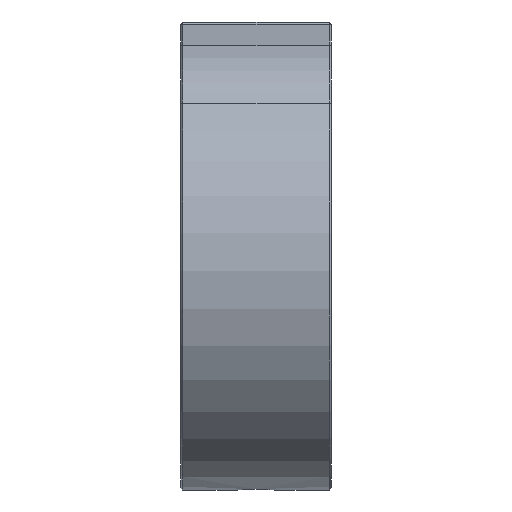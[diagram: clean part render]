
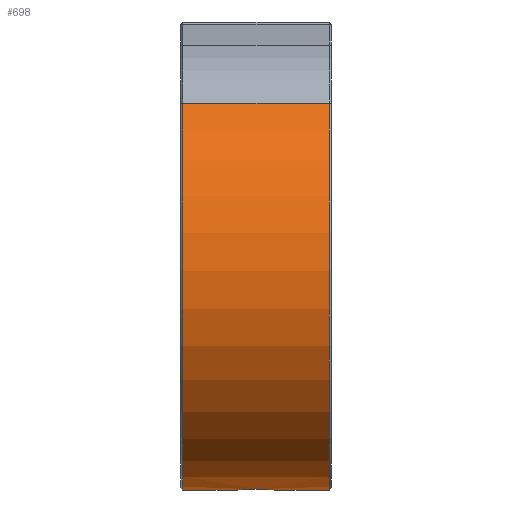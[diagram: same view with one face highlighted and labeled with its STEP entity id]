
A CAD part, left-side view. The second image highlights one B-rep face of the part: STEP entity #698.
In plain terms, the highlighted cylindrical face has radius 29 mm (diameter 58 mm), a partial arc.
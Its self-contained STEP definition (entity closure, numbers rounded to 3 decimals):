
#1 = DIRECTION ( 'NONE',  ( 0., 1., 0. ) ) ;
#11 = CARTESIAN_POINT ( 'NONE',  ( 0., 0.3, 0. ) ) ;
#39 = CARTESIAN_POINT ( 'NONE',  ( -1.252, 12.17, -28.973 ) ) ;
#41 = VERTEX_POINT ( 'NONE', #383 ) ;
#54 = CARTESIAN_POINT ( 'NONE',  ( -2.5, 10.33, -28.892 ) ) ;
#70 = CARTESIAN_POINT ( 'NONE',  ( -18.59, 19.7, 22.258 ) ) ;
#74 = AXIS2_PLACEMENT_3D ( 'NONE', #185, #816, #1125 ) ;
#78 = DIRECTION ( 'NONE',  ( 0., -1., 0. ) ) ;
#92 = CARTESIAN_POINT ( 'NONE',  ( -2.246, 8.891, -28.913 ) ) ;
#97 = CARTESIAN_POINT ( 'NONE',  ( 0., 0.3, -29. ) ) ;
#136 = EDGE_CURVE ( 'NONE', #723, #773, #333, .T. ) ;
#137 = EDGE_LOOP ( 'NONE', ( #879, #854, #755, #1072, #337, #941, #934 ) ) ;
#148 = CARTESIAN_POINT ( 'NONE',  ( -0.328, 12.484, -28.999 ) ) ;
#185 = CARTESIAN_POINT ( 'NONE',  ( 0., 19.7, 0. ) ) ;
#215 = B_SPLINE_CURVE_WITH_KNOTS ( 'NONE', 3,
 ( #975, #780, #148, #877, #856, #763, #39, #441, #1297, #1082, #241, #565, #982, #434, #54, #869 ),
 .UNSPECIFIED., .F., .F.,
 ( 4, 2, 2, 2, 2, 2, 2, 4 ),
 ( 0.012, 0.012, 0.013, 0.013, 0.014, 0.014, 0.015, 0.016 ),
 .UNSPECIFIED. ) ;
#219 = B_SPLINE_CURVE_WITH_KNOTS ( 'NONE', 3,
 ( #601, #1119, #498, #289, #681, #92, #375, #277, #1320, #263, #1329, #1105, #703, #367, #283, #802, #1098, #809 ),
 .UNSPECIFIED., .F., .F.,
 ( 4, 2, 2, 2, 2, 2, 2, 2, 4 ),
 ( 0., 0., 0.001, 0.001, 0.002, 0.002, 0.003, 0.003, 0.004 ),
 .UNSPECIFIED. ) ;
#241 = CARTESIAN_POINT ( 'NONE',  ( -1.986, 11.527, -28.932 ) ) ;
#263 = CARTESIAN_POINT ( 'NONE',  ( -1.652, 8.116, -28.953 ) ) ;
#269 = EDGE_CURVE ( 'NONE', #758, #356, #215, .T. ) ;
#277 = CARTESIAN_POINT ( 'NONE',  ( -1.988, 8.475, -28.932 ) ) ;
#283 = CARTESIAN_POINT ( 'NONE',  ( -0.648, 7.58, -28.993 ) ) ;
#289 = CARTESIAN_POINT ( 'NONE',  ( -2.42, 9.352, -28.899 ) ) ;
#333 = CIRCLE ( 'NONE', #861, 29. ) ;
#337 = ORIENTED_EDGE ( 'NONE', *, *, #646, .T. ) ;
#345 = EDGE_CURVE ( 'NONE', #356, #41, #219, .T. ) ;
#356 = VERTEX_POINT ( 'NONE', #483 ) ;
#359 = CARTESIAN_POINT ( 'NONE',  ( 0., 19.7, -29. ) ) ;
#367 = CARTESIAN_POINT ( 'NONE',  ( -0.806, 7.628, -28.989 ) ) ;
#375 = CARTESIAN_POINT ( 'NONE',  ( -2.17, 8.747, -28.919 ) ) ;
#383 = CARTESIAN_POINT ( 'NONE',  ( 0., 7.5, -29. ) ) ;
#384 = CARTESIAN_POINT ( 'NONE',  ( 0., 20., -29. ) ) ;
#405 = DIRECTION ( 'NONE',  ( 0., 0., 1. ) ) ;
#427 = VERTEX_POINT ( 'NONE', #70 ) ;
#434 = CARTESIAN_POINT ( 'NONE',  ( -2.434, 10.658, -28.898 ) ) ;
#441 = CARTESIAN_POINT ( 'NONE',  ( -1.523, 11.989, -28.96 ) ) ;
#483 = CARTESIAN_POINT ( 'NONE',  ( -2.5, 10., -28.892 ) ) ;
#498 = CARTESIAN_POINT ( 'NONE',  ( -2.484, 9.672, -28.893 ) ) ;
#502 = LINE ( 'NONE', #1132, #517 ) ;
#509 = DIRECTION ( 'NONE',  ( 0., 1., 0. ) ) ;
#517 = VECTOR ( 'NONE', #509, 1000. ) ;
#565 = CARTESIAN_POINT ( 'NONE',  ( -2.169, 11.255, -28.919 ) ) ;
#589 = DIRECTION ( 'NONE',  ( 0., 0., -1. ) ) ;
#597 = FACE_OUTER_BOUND ( 'NONE', #137, .T. ) ;
#601 = CARTESIAN_POINT ( 'NONE',  ( -2.5, 10., -28.892 ) ) ;
#619 = VECTOR ( 'NONE', #979, 1000. ) ;
#646 = EDGE_CURVE ( 'NONE', #41, #723, #1183, .T. ) ;
#655 = CARTESIAN_POINT ( 'NONE',  ( 0., 20., -29. ) ) ;
#681 = CARTESIAN_POINT ( 'NONE',  ( -2.372, 9.194, -28.903 ) ) ;
#698 = ADVANCED_FACE ( 'NONE', ( #597 ), #721, .T. ) ;
#703 = CARTESIAN_POINT ( 'NONE',  ( -1.107, 7.753, -28.979 ) ) ;
#714 = CARTESIAN_POINT ( 'NONE',  ( 0., 12.5, -29. ) ) ;
#721 = CYLINDRICAL_SURFACE ( 'NONE', #907, 29. ) ;
#723 = VERTEX_POINT ( 'NONE', #97 ) ;
#725 = EDGE_CURVE ( 'NONE', #773, #427, #502, .T. ) ;
#755 = ORIENTED_EDGE ( 'NONE', *, *, #269, .T. ) ;
#758 = VERTEX_POINT ( 'NONE', #714 ) ;
#763 = CARTESIAN_POINT ( 'NONE',  ( -1.108, 12.247, -28.979 ) ) ;
#773 = VERTEX_POINT ( 'NONE', #936 ) ;
#780 = CARTESIAN_POINT ( 'NONE',  ( -0.165, 12.5, -29. ) ) ;
#802 = CARTESIAN_POINT ( 'NONE',  ( -0.326, 7.516, -28.999 ) ) ;
#809 = CARTESIAN_POINT ( 'NONE',  ( 0., 7.5, -29. ) ) ;
#816 = DIRECTION ( 'NONE',  ( 0., -1., 0. ) ) ;
#831 = DIRECTION ( 'NONE',  ( 0., -1., 0. ) ) ;
#854 = ORIENTED_EDGE ( 'NONE', *, *, #1087, .T. ) ;
#856 = CARTESIAN_POINT ( 'NONE',  ( -0.806, 12.372, -28.989 ) ) ;
#861 = AXIS2_PLACEMENT_3D ( 'NONE', #11, #1, #405 ) ;
#869 = CARTESIAN_POINT ( 'NONE',  ( -2.5, 10., -28.892 ) ) ;
#877 = CARTESIAN_POINT ( 'NONE',  ( -0.647, 12.42, -28.993 ) ) ;
#879 = ORIENTED_EDGE ( 'NONE', *, *, #1327, .T. ) ;
#907 = AXIS2_PLACEMENT_3D ( 'NONE', #1334, #831, #589 ) ;
#934 = ORIENTED_EDGE ( 'NONE', *, *, #725, .T. ) ;
#936 = CARTESIAN_POINT ( 'NONE',  ( -18.59, 0.3, 22.258 ) ) ;
#941 = ORIENTED_EDGE ( 'NONE', *, *, #136, .T. ) ;
#975 = CARTESIAN_POINT ( 'NONE',  ( 0., 12.5, -29. ) ) ;
#979 = DIRECTION ( 'NONE',  ( 0., -1., 0. ) ) ;
#982 = CARTESIAN_POINT ( 'NONE',  ( -2.246, 11.109, -28.913 ) ) ;
#988 = CIRCLE ( 'NONE', #74, 29. ) ;
#1072 = ORIENTED_EDGE ( 'NONE', *, *, #345, .T. ) ;
#1082 = CARTESIAN_POINT ( 'NONE',  ( -1.882, 11.653, -28.939 ) ) ;
#1087 = EDGE_CURVE ( 'NONE', #1187, #758, #1235, .T. ) ;
#1098 = CARTESIAN_POINT ( 'NONE',  ( -0.163, 7.5, -29. ) ) ;
#1105 = CARTESIAN_POINT ( 'NONE',  ( -1.252, 7.83, -28.973 ) ) ;
#1119 = CARTESIAN_POINT ( 'NONE',  ( -2.5, 9.835, -28.892 ) ) ;
#1125 = DIRECTION ( 'NONE',  ( 0., 0., 1. ) ) ;
#1132 = CARTESIAN_POINT ( 'NONE',  ( -18.59, 0., 22.258 ) ) ;
#1183 = LINE ( 'NONE', #655, #619 ) ;
#1187 = VERTEX_POINT ( 'NONE', #359 ) ;
#1235 = LINE ( 'NONE', #384, #1308 ) ;
#1297 = CARTESIAN_POINT ( 'NONE',  ( -1.652, 11.884, -28.953 ) ) ;
#1308 = VECTOR ( 'NONE', #78, 1000. ) ;
#1320 = CARTESIAN_POINT ( 'NONE',  ( -1.882, 8.347, -28.939 ) ) ;
#1327 = EDGE_CURVE ( 'NONE', #427, #1187, #988, .T. ) ;
#1329 = CARTESIAN_POINT ( 'NONE',  ( -1.526, 8.013, -28.96 ) ) ;
#1334 = CARTESIAN_POINT ( 'NONE',  ( 0., 20., 0. ) ) ;
